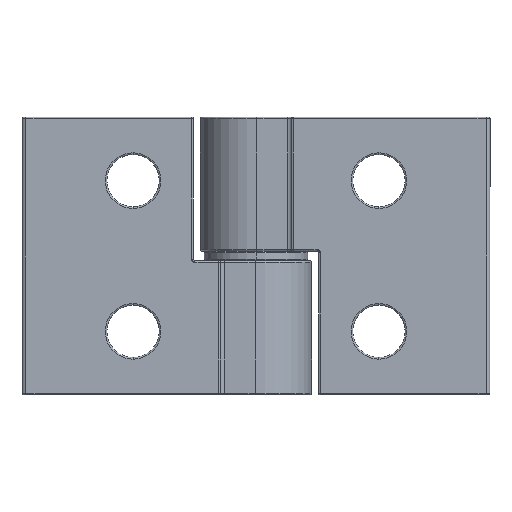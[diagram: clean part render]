
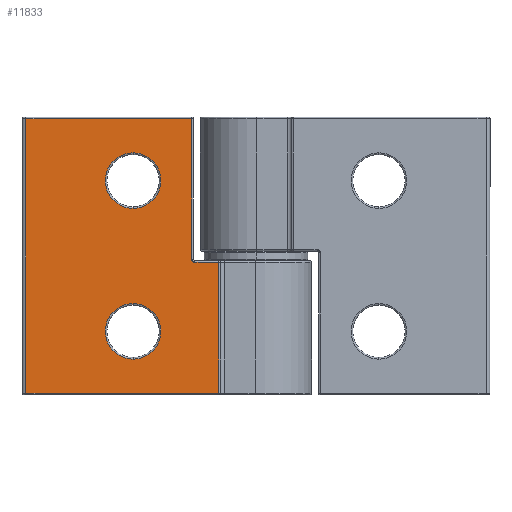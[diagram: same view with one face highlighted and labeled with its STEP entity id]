
A CAD part, front view. The second image highlights one B-rep face of the part: STEP entity #11833.
In plain terms, the highlighted planar face has unit normal (0, -1, 0).
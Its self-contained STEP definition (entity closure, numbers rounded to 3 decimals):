
#66 = ORIENTED_EDGE ( 'NONE', *, *, #8327, .T. ) ;
#126 = CARTESIAN_POINT ( 'NONE',  ( -4.693, -8.4, -0.8 ) ) ;
#193 = VECTOR ( 'NONE', #10620, 1000. ) ;
#201 = CARTESIAN_POINT ( 'NONE',  ( -29., -8.4, -17.3 ) ) ;
#877 = EDGE_CURVE ( 'NONE', #5189, #11506, #13371, .T. ) ;
#970 = DIRECTION ( 'NONE',  ( 0., 0., 1. ) ) ;
#975 = EDGE_CURVE ( 'NONE', #2734, #6453, #9969, .T. ) ;
#1008 = AXIS2_PLACEMENT_3D ( 'NONE', #7248, #11485, #12487 ) ;
#1197 = CIRCLE ( 'NONE', #6520, 3.5 ) ;
#1557 = EDGE_CURVE ( 'NONE', #7318, #10676, #1197, .T. ) ;
#1869 = CARTESIAN_POINT ( 'NONE',  ( -7.7, -8.4, -0.4 ) ) ;
#1950 = CARTESIAN_POINT ( 'NONE',  ( -29.5, -8.4, 17.3 ) ) ;
#1967 = CIRCLE ( 'NONE', #4871, 3.5 ) ;
#2059 = ORIENTED_EDGE ( 'NONE', *, *, #12725, .T. ) ;
#2208 = CIRCLE ( 'NONE', #1008, 3.5 ) ;
#2277 = CARTESIAN_POINT ( 'NONE',  ( -8.1, -8.4, 17.5 ) ) ;
#2351 = VECTOR ( 'NONE', #9482, 1000. ) ;
#2479 = ORIENTED_EDGE ( 'NONE', *, *, #975, .T. ) ;
#2567 = LINE ( 'NONE', #10058, #4502 ) ;
#2596 = DIRECTION ( 'NONE',  ( 0., 1., 0. ) ) ;
#2623 = FACE_BOUND ( 'NONE', #11827, .T. ) ;
#2696 = ORIENTED_EDGE ( 'NONE', *, *, #9735, .F. ) ;
#2734 = VERTEX_POINT ( 'NONE', #126 ) ;
#2758 = CARTESIAN_POINT ( 'NONE',  ( -15.5, -8.4, 6. ) ) ;
#2929 = LINE ( 'NONE', #2277, #193 ) ;
#2944 = EDGE_CURVE ( 'NONE', #12563, #4118, #1967, .T. ) ;
#2961 = VERTEX_POINT ( 'NONE', #9732 ) ;
#3036 = LINE ( 'NONE', #9409, #3216 ) ;
#3216 = VECTOR ( 'NONE', #8345, 1000. ) ;
#3289 = FACE_OUTER_BOUND ( 'NONE', #6856, .T. ) ;
#3484 = VECTOR ( 'NONE', #9204, 1000. ) ;
#3623 = ORIENTED_EDGE ( 'NONE', *, *, #7289, .F. ) ;
#3673 = VERTEX_POINT ( 'NONE', #6835 ) ;
#3859 = DIRECTION ( 'NONE',  ( 0., 0., 1. ) ) ;
#3990 = DIRECTION ( 'NONE',  ( 0., -1., 0. ) ) ;
#4068 = FACE_BOUND ( 'NONE', #5048, .T. ) ;
#4118 = VERTEX_POINT ( 'NONE', #2758 ) ;
#4416 = ORIENTED_EDGE ( 'NONE', *, *, #6531, .T. ) ;
#4502 = VECTOR ( 'NONE', #11112, 1000. ) ;
#4507 = CARTESIAN_POINT ( 'NONE',  ( -15.5, -8.4, 9.5 ) ) ;
#4871 = AXIS2_PLACEMENT_3D ( 'NONE', #4507, #11728, #6632 ) ;
#5048 = EDGE_LOOP ( 'NONE', ( #10237, #9314 ) ) ;
#5170 = PLANE ( 'NONE',  #11552 ) ;
#5189 = VERTEX_POINT ( 'NONE', #7235 ) ;
#5569 = CIRCLE ( 'NONE', #10142, 0.4 ) ;
#6122 = DIRECTION ( 'NONE',  ( 0., 1., 0. ) ) ;
#6422 = VERTEX_POINT ( 'NONE', #201 ) ;
#6453 = VERTEX_POINT ( 'NONE', #8779 ) ;
#6520 = AXIS2_PLACEMENT_3D ( 'NONE', #9710, #2596, #10863 ) ;
#6531 = EDGE_CURVE ( 'NONE', #2961, #2734, #2567, .T. ) ;
#6548 = ORIENTED_EDGE ( 'NONE', *, *, #7572, .T. ) ;
#6632 = DIRECTION ( 'NONE',  ( 0., 0., 1. ) ) ;
#6835 = CARTESIAN_POINT ( 'NONE',  ( -8.1, -8.4, -0.4 ) ) ;
#6847 = ORIENTED_EDGE ( 'NONE', *, *, #877, .T. ) ;
#6856 = EDGE_LOOP ( 'NONE', ( #6548, #4416, #2479, #2696, #2059, #6847, #3623 ) ) ;
#7235 = CARTESIAN_POINT ( 'NONE',  ( -8.1, -8.4, 17.3 ) ) ;
#7248 = CARTESIAN_POINT ( 'NONE',  ( -15.5, -8.4, 9.5 ) ) ;
#7289 = EDGE_CURVE ( 'NONE', #6422, #11506, #3036, .T. ) ;
#7318 = VERTEX_POINT ( 'NONE', #10417 ) ;
#7572 = EDGE_CURVE ( 'NONE', #6422, #2961, #11620, .T. ) ;
#7612 = CARTESIAN_POINT ( 'NONE',  ( -15.5, -8.4, -9.5 ) ) ;
#7623 = CARTESIAN_POINT ( 'NONE',  ( -15.5, -8.4, -6. ) ) ;
#7829 = CARTESIAN_POINT ( 'NONE',  ( -4.5, -8.4, -17.3 ) ) ;
#8022 = VECTOR ( 'NONE', #10998, 1000. ) ;
#8083 = EDGE_CURVE ( 'NONE', #10676, #7318, #9993, .T. ) ;
#8289 = CARTESIAN_POINT ( 'NONE',  ( -29.5, -8.4, 17.5 ) ) ;
#8327 = EDGE_CURVE ( 'NONE', #4118, #12563, #2208, .T. ) ;
#8345 = DIRECTION ( 'NONE',  ( 0., 0., 1. ) ) ;
#8779 = CARTESIAN_POINT ( 'NONE',  ( -7.7, -8.4, -0.8 ) ) ;
#9204 = DIRECTION ( 'NONE',  ( -1., 0., 0. ) ) ;
#9314 = ORIENTED_EDGE ( 'NONE', *, *, #1557, .T. ) ;
#9409 = CARTESIAN_POINT ( 'NONE',  ( -29., -8.4, -17.5 ) ) ;
#9482 = DIRECTION ( 'NONE',  ( -1., 0., 0. ) ) ;
#9680 = DIRECTION ( 'NONE',  ( 0., 0., 1. ) ) ;
#9710 = CARTESIAN_POINT ( 'NONE',  ( -15.5, -8.4, -9.5 ) ) ;
#9732 = CARTESIAN_POINT ( 'NONE',  ( -4.693, -8.4, -17.3 ) ) ;
#9735 = EDGE_CURVE ( 'NONE', #3673, #6453, #5569, .T. ) ;
#9969 = LINE ( 'NONE', #11657, #2351 ) ;
#9993 = CIRCLE ( 'NONE', #12917, 3.5 ) ;
#10058 = CARTESIAN_POINT ( 'NONE',  ( -4.693, -8.4, 17.5 ) ) ;
#10142 = AXIS2_PLACEMENT_3D ( 'NONE', #1869, #3990, #3859 ) ;
#10237 = ORIENTED_EDGE ( 'NONE', *, *, #8083, .T. ) ;
#10417 = CARTESIAN_POINT ( 'NONE',  ( -15.5, -8.4, -13. ) ) ;
#10620 = DIRECTION ( 'NONE',  ( 0., 0., 1. ) ) ;
#10676 = VERTEX_POINT ( 'NONE', #7623 ) ;
#10734 = DIRECTION ( 'NONE',  ( 0., 1., 0. ) ) ;
#10738 = ORIENTED_EDGE ( 'NONE', *, *, #2944, .T. ) ;
#10863 = DIRECTION ( 'NONE',  ( 0., 0., 1. ) ) ;
#10998 = DIRECTION ( 'NONE',  ( 1., 0., 0. ) ) ;
#11112 = DIRECTION ( 'NONE',  ( 0., 0., 1. ) ) ;
#11485 = DIRECTION ( 'NONE',  ( 0., 1., 0. ) ) ;
#11506 = VERTEX_POINT ( 'NONE', #11682 ) ;
#11513 = CARTESIAN_POINT ( 'NONE',  ( -15.5, -8.4, 13. ) ) ;
#11552 = AXIS2_PLACEMENT_3D ( 'NONE', #8289, #6122, #970 ) ;
#11620 = LINE ( 'NONE', #7829, #8022 ) ;
#11657 = CARTESIAN_POINT ( 'NONE',  ( -29.5, -8.4, -0.8 ) ) ;
#11682 = CARTESIAN_POINT ( 'NONE',  ( -29., -8.4, 17.3 ) ) ;
#11728 = DIRECTION ( 'NONE',  ( 0., 1., 0. ) ) ;
#11827 = EDGE_LOOP ( 'NONE', ( #10738, #66 ) ) ;
#11833 = ADVANCED_FACE ( 'NONE', ( #4068, #2623, #3289 ), #5170, .F. ) ;
#12487 = DIRECTION ( 'NONE',  ( 0., 0., 1. ) ) ;
#12563 = VERTEX_POINT ( 'NONE', #11513 ) ;
#12725 = EDGE_CURVE ( 'NONE', #3673, #5189, #2929, .T. ) ;
#12917 = AXIS2_PLACEMENT_3D ( 'NONE', #7612, #10734, #9680 ) ;
#13371 = LINE ( 'NONE', #1950, #3484 ) ;
